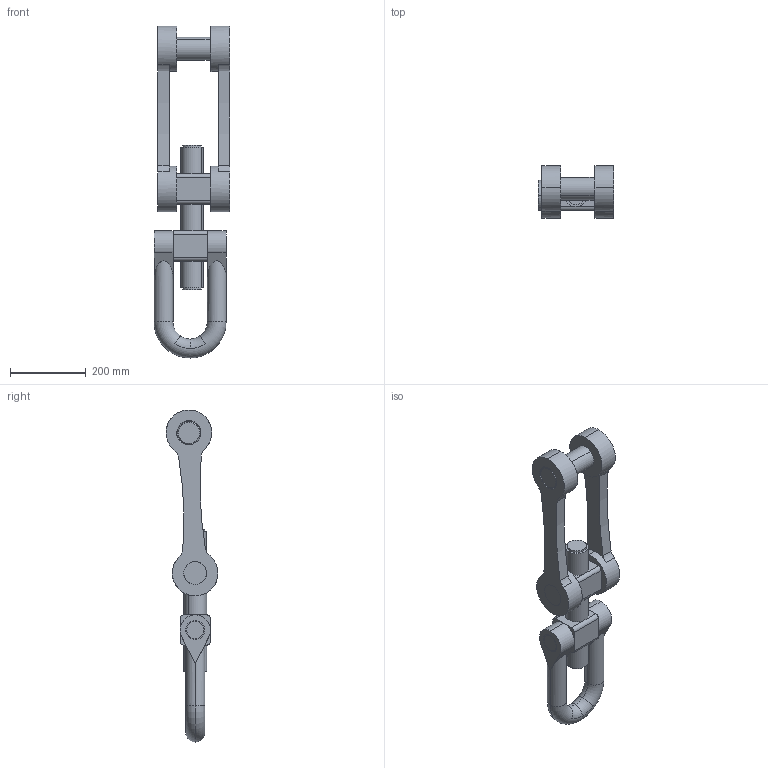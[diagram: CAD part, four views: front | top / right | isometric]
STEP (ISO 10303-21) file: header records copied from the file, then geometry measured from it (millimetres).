
FILE_DESCRIPTION (( 'STEP AP203' ), '1' );
FILE_NAME ('Assem1.STEP', '2021-03-29T16:52:30', ( '' ), ( '' ), 'SwSTEP 2.0', 'SolidWorks 2019', '' );
FILE_SCHEMA (( 'CONFIG_CONTROL_DESIGN' ));
Length unit declared in the file: millimetre
Products named in the file (7): Part3; Assem1; Part5; Part2; Part4; Part1; Part21
Assembly tree (7 placements, depth 2):
  Assem1
    Part1
    Part4  x2
    Part3
    Part2
    Part5
    Part21
Bounding box: 200 x 136.63 x 874.57 mm (x, y, z)
Volume: 6664396.1 mm3; surface area: 643203.8 mm2
Topology: 7 solids, 7 shells, 130 faces, 311 edges, 197 vertices
Faces by surface type: cylinder 72, plane 44, cone 8, torus 6
Entity records: 3993 total; most frequent: DIRECTION 640, CARTESIAN_POINT 554, ORIENTED_EDGE 518, AXIS2_PLACEMENT_3D 265, EDGE_CURVE 259, VERTEX_POINT 163, CIRCLE 145, EDGE_LOOP 124
